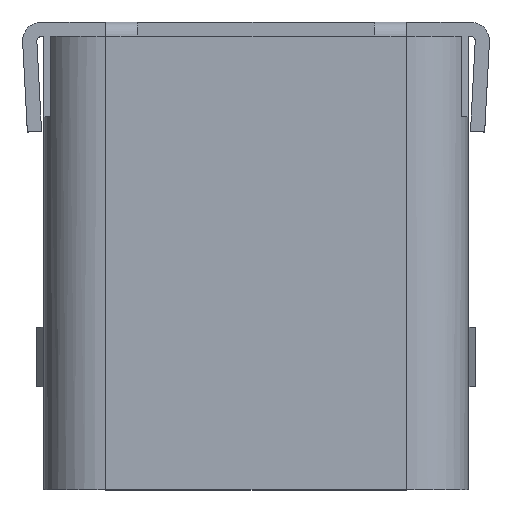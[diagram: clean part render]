
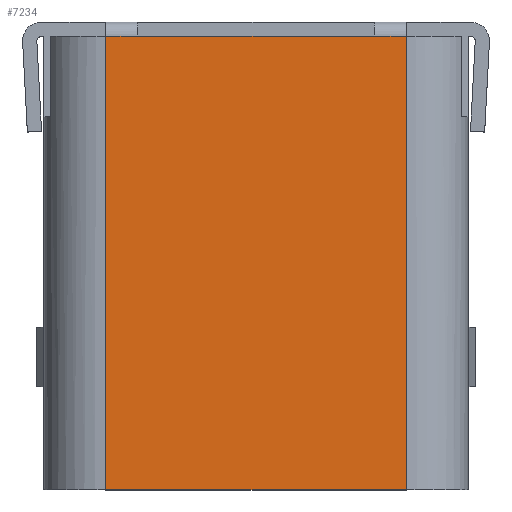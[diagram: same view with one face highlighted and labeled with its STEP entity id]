
A CAD part, top view. The second image highlights one B-rep face of the part: STEP entity #7234.
In plain terms, the highlighted planar face has unit normal (0, 0, 1).
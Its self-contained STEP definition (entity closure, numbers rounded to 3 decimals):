
#773=DIRECTION('',(1.,0.,0.));
#774=VECTOR('',#773,0.675);
#775=CARTESIAN_POINT('',(-3.175,9.57,3.16));
#776=LINE('',#775,#774);
#1148=DIRECTION('',(0.,-1.,0.));
#1149=VECTOR('',#1148,9.57);
#1150=CARTESIAN_POINT('',(3.175,9.57,3.16));
#1151=LINE('',#1150,#1149);
#1160=DIRECTION('',(-1.,0.,0.));
#1161=VECTOR('',#1160,5.);
#1162=CARTESIAN_POINT('',(2.5,9.57,3.16));
#1163=LINE('',#1162,#1161);
#1168=DIRECTION('',(0.,1.,0.));
#1169=VECTOR('',#1168,9.57);
#1170=CARTESIAN_POINT('',(-3.175,0.,3.16));
#1171=LINE('',#1170,#1169);
#1204=DIRECTION('',(-1.,0.,0.));
#1205=VECTOR('',#1204,6.35);
#1206=CARTESIAN_POINT('',(3.175,0.,3.16));
#1207=LINE('',#1206,#1205);
#2449=DIRECTION('',(1.,0.,0.));
#2450=VECTOR('',#2449,0.675);
#2451=CARTESIAN_POINT('',(2.5,9.57,3.16));
#2452=LINE('',#2451,#2450);
#4376=CARTESIAN_POINT('',(3.175,0.,3.16));
#4377=VERTEX_POINT('',#4376);
#4378=CARTESIAN_POINT('',(-3.175,0.,3.16));
#4379=VERTEX_POINT('',#4378);
#4448=CARTESIAN_POINT('',(-3.175,9.57,3.16));
#4449=VERTEX_POINT('',#4448);
#4450=CARTESIAN_POINT('',(3.175,9.57,3.16));
#4451=VERTEX_POINT('',#4450);
#4452=CARTESIAN_POINT('',(2.5,9.57,3.16));
#4453=VERTEX_POINT('',#4452);
#4454=CARTESIAN_POINT('',(-2.5,9.57,3.16));
#4455=VERTEX_POINT('',#4454);
#7218=CARTESIAN_POINT('',(-3.175,0.,3.16));
#7219=DIRECTION('',(0.,0.,1.));
#7220=DIRECTION('',(1.,0.,0.));
#7221=AXIS2_PLACEMENT_3D('',#7218,#7219,#7220);
#7222=PLANE('',#7221);
#7224=ORIENTED_EDGE('',*,*,#7223,.T.);
#7225=ORIENTED_EDGE('',*,*,#6645,.T.);
#7226=ORIENTED_EDGE('',*,*,#6676,.F.);
#7228=ORIENTED_EDGE('',*,*,#7227,.T.);
#7229=ORIENTED_EDGE('',*,*,#7206,.T.);
#7231=ORIENTED_EDGE('',*,*,#7230,.T.);
#7232=EDGE_LOOP('',(#7224,#7225,#7226,#7228,#7229,#7231));
#7233=FACE_OUTER_BOUND('',#7232,.F.);
#6645=EDGE_CURVE('',#4449,#4455,#776,.T.);
#6676=EDGE_CURVE('',#4453,#4455,#1163,.T.);
#7206=EDGE_CURVE('',#4451,#4377,#1151,.T.);
#7223=EDGE_CURVE('',#4379,#4449,#1171,.T.);
#7227=EDGE_CURVE('',#4453,#4451,#2452,.T.);
#7230=EDGE_CURVE('',#4377,#4379,#1207,.T.);
#7234=ADVANCED_FACE('',(#7233),#7222,.T.);
